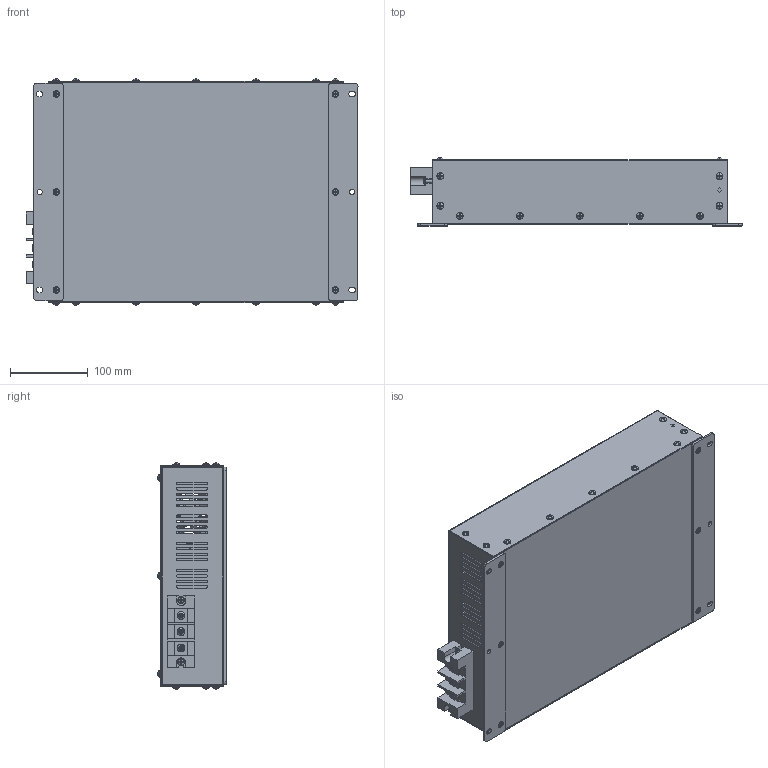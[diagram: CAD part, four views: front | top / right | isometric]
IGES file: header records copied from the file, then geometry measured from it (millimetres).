
Global section: file name: VW2; native system: Autodesk Inventor 2021; preprocessor: unknown; author: eunsol jang; date: 20220616.161855; units: inch
Bounding box: 427 x 87.92 x 290.84 mm (x, y, z)
Volume: 620171.8 mm3; surface area: 757397 mm2
Topology: 7 solids, 7 shells, 2054 faces, 5604 edges, 3678 vertices
Faces by surface type: bspline 2054
